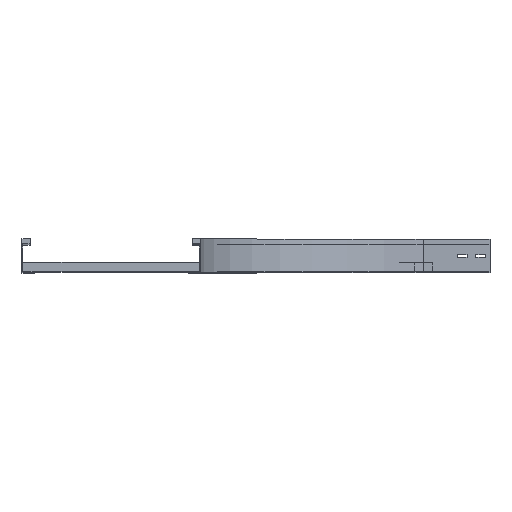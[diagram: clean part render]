
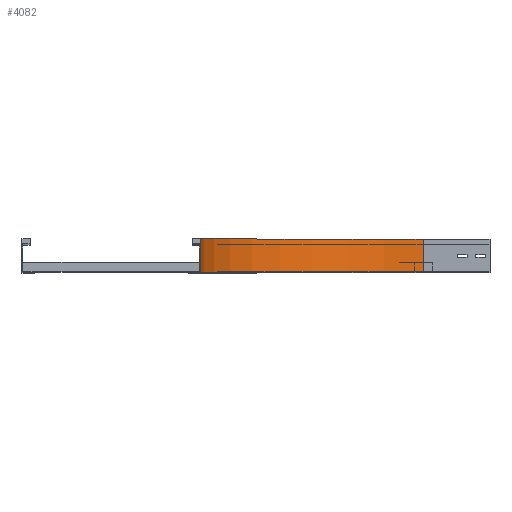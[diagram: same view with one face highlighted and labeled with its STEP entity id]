
A CAD part, top view. The second image highlights one B-rep face of the part: STEP entity #4082.
In plain terms, the highlighted cylindrical face has radius 500 mm (diameter 1000 mm), a partial arc.
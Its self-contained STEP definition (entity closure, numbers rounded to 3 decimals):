
#141 = CARTESIAN_POINT ( 'NONE',  ( 500., 75., -150. ) ) ;
#279 = LINE ( 'NONE', #1602, #1544 ) ;
#479 = CARTESIAN_POINT ( 'NONE',  ( 500., 0., -650. ) ) ;
#486 = VERTEX_POINT ( 'NONE', #2549 ) ;
#497 = EDGE_LOOP ( 'NONE', ( #645, #2742, #3461, #523 ) ) ;
#523 = ORIENTED_EDGE ( 'NONE', *, *, #3177, .T. ) ;
#645 = ORIENTED_EDGE ( 'NONE', *, *, #1188, .F. ) ;
#1011 = AXIS2_PLACEMENT_3D ( 'NONE', #141, #2044, #2087 ) ;
#1120 = EDGE_CURVE ( 'NONE', #2679, #4001, #3102, .T. ) ;
#1188 = EDGE_CURVE ( 'NONE', #486, #4140, #4260, .T. ) ;
#1405 = DIRECTION ( 'NONE',  ( -1., 0., 0. ) ) ;
#1476 = VECTOR ( 'NONE', #3098, 1000. ) ;
#1507 = FACE_OUTER_BOUND ( 'NONE', #497, .T. ) ;
#1515 = LINE ( 'NONE', #479, #1476 ) ;
#1544 = VECTOR ( 'NONE', #3583, 1000. ) ;
#1602 = CARTESIAN_POINT ( 'NONE',  ( 0., 0., -150. ) ) ;
#1674 = CARTESIAN_POINT ( 'NONE',  ( 500., 0., -650. ) ) ;
#1972 = AXIS2_PLACEMENT_3D ( 'NONE', #3757, #3091, #1405 ) ;
#2044 = DIRECTION ( 'NONE',  ( 0., -1., 0. ) ) ;
#2087 = DIRECTION ( 'NONE',  ( -1., 0., 0. ) ) ;
#2146 = DIRECTION ( 'NONE',  ( 0., -1., 0. ) ) ;
#2167 = CARTESIAN_POINT ( 'NONE',  ( 500., 75., -650. ) ) ;
#2453 = DIRECTION ( 'NONE',  ( 0., 0., -1. ) ) ;
#2549 = CARTESIAN_POINT ( 'NONE',  ( 0., 75., -150. ) ) ;
#2679 = VERTEX_POINT ( 'NONE', #3254 ) ;
#2742 = ORIENTED_EDGE ( 'NONE', *, *, #3378, .F. ) ;
#2807 = CARTESIAN_POINT ( 'NONE',  ( 500., 0., -150. ) ) ;
#3091 = DIRECTION ( 'NONE',  ( 0., -1., 0. ) ) ;
#3098 = DIRECTION ( 'NONE',  ( 0., 1., 0. ) ) ;
#3102 = CIRCLE ( 'NONE', #1972, 500. ) ;
#3177 = EDGE_CURVE ( 'NONE', #4001, #4140, #1515, .T. ) ;
#3254 = CARTESIAN_POINT ( 'NONE',  ( 0., 0., -150. ) ) ;
#3378 = EDGE_CURVE ( 'NONE', #2679, #486, #279, .T. ) ;
#3412 = AXIS2_PLACEMENT_3D ( 'NONE', #2807, #2146, #2453 ) ;
#3461 = ORIENTED_EDGE ( 'NONE', *, *, #1120, .T. ) ;
#3583 = DIRECTION ( 'NONE',  ( 0., 1., 0. ) ) ;
#3757 = CARTESIAN_POINT ( 'NONE',  ( 500., 0., -150. ) ) ;
#4001 = VERTEX_POINT ( 'NONE', #1674 ) ;
#4082 = ADVANCED_FACE ( 'NONE', ( #1507 ), #4134, .F. ) ;
#4134 = CYLINDRICAL_SURFACE ( 'NONE', #3412, 500. ) ;
#4140 = VERTEX_POINT ( 'NONE', #2167 ) ;
#4260 = CIRCLE ( 'NONE', #1011, 500. ) ;
